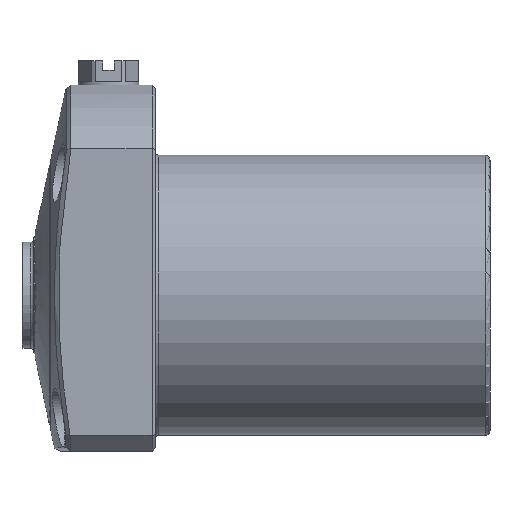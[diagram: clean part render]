
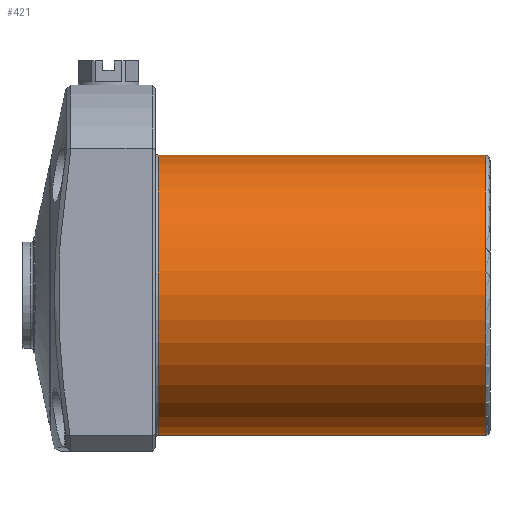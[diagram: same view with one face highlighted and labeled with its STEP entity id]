
A CAD part, left-side view. The second image highlights one B-rep face of the part: STEP entity #421.
In plain terms, the highlighted cylindrical face has radius 18 mm (diameter 36 mm), a partial arc.
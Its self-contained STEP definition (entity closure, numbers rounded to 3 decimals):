
#421=ADVANCED_FACE('',(#684),#569,.T.);
#569=CYLINDRICAL_SURFACE('',#3304,18.);
#684=FACE_OUTER_BOUND('',#862,.T.);
#862=EDGE_LOOP('',(#1691,#1692,#1693,#1694));
#1138=LINE('',#5265,#1315);
#1139=LINE('',#5267,#1316);
#1315=VECTOR('',#4005,1.);
#1316=VECTOR('',#4008,1.);
#1691=ORIENTED_EDGE('',*,*,#2667,.T.);
#1692=ORIENTED_EDGE('',*,*,#2724,.T.);
#1693=ORIENTED_EDGE('',*,*,#2725,.T.);
#1694=ORIENTED_EDGE('',*,*,#2726,.F.);
#2362=VERTEX_POINT('',#5090);
#2363=VERTEX_POINT('',#5092);
#2367=VERTEX_POINT('',#5101);
#2368=VERTEX_POINT('',#5103);
#2667=EDGE_CURVE('',#2363,#2362,#2985,.T.);
#2724=EDGE_CURVE('',#2362,#2367,#1138,.T.);
#2725=EDGE_CURVE('',#2367,#2368,#3018,.T.);
#2726=EDGE_CURVE('',#2363,#2368,#1139,.T.);
#2985=CIRCLE('',#3255,18.);
#3018=CIRCLE('',#3303,18.);
#3255=AXIS2_PLACEMENT_3D('',#5091,#3887,#3888);
#3303=AXIS2_PLACEMENT_3D('',#5266,#4006,#4007);
#3304=AXIS2_PLACEMENT_3D('',#5268,#4009,#4010);
#3887=DIRECTION('',(0.,1.,0.));
#3888=DIRECTION('',(0.,0.,1.));
#4005=DIRECTION('',(0.,1.,0.));
#4006=DIRECTION('',(0.,-1.,0.));
#4007=DIRECTION('',(0.,0.,1.));
#4008=DIRECTION('',(0.,1.,0.));
#4009=DIRECTION('',(0.,1.,0.));
#4010=DIRECTION('',(0.,0.,-1.));
#5090=CARTESIAN_POINT('',(0.,0.4,-18.));
#5091=CARTESIAN_POINT('',(0.,0.4,0.));
#5092=CARTESIAN_POINT('',(0.,0.4,18.));
#5101=CARTESIAN_POINT('',(0.,42.4,-18.));
#5103=CARTESIAN_POINT('',(0.,42.4,18.));
#5265=CARTESIAN_POINT('',(0.,59.9,-18.));
#5266=CARTESIAN_POINT('',(0.,42.4,0.));
#5267=CARTESIAN_POINT('',(0.,59.9,18.));
#5268=CARTESIAN_POINT('',(0.,59.9,0.));
